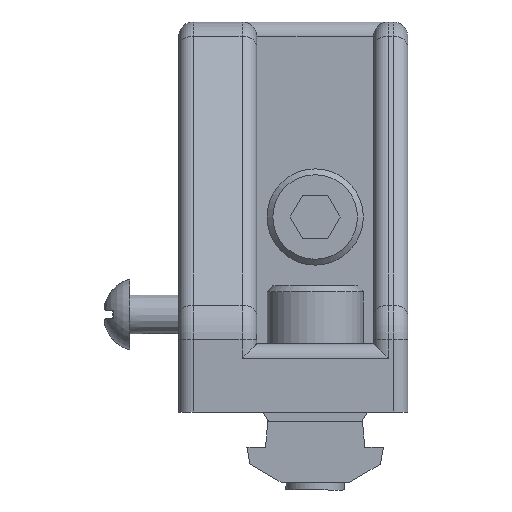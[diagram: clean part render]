
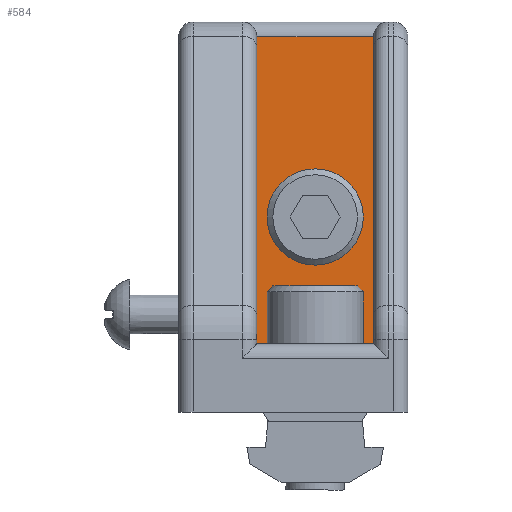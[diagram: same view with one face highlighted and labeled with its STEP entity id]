
A CAD part, front view. The second image highlights one B-rep face of the part: STEP entity #584.
In plain terms, the highlighted planar face has unit normal (0, -1, 0) as drawn and (0, 1, 0) by its records, which use the part's own axes.
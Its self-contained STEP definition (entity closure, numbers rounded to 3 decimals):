
#584=ADVANCED_FACE('',(#1278,#1279),#1280,.F.);
#1278=FACE_BOUND('',#2137,.T.);
#1279=FACE_OUTER_BOUND('',#2138,.T.);
#1280=PLANE('',#2139);
#2137=EDGE_LOOP('',(#3488));
#2138=EDGE_LOOP('',(#3489,#3490,#3491,#3492));
#2139=AXIS2_PLACEMENT_3D('',#3493,#3494,#3495);
#3488=ORIENTED_EDGE('',*,*,#5452,.F.);
#3489=ORIENTED_EDGE('',*,*,#5453,.F.);
#3490=ORIENTED_EDGE('',*,*,#5385,.T.);
#3491=ORIENTED_EDGE('',*,*,#5454,.F.);
#3492=ORIENTED_EDGE('',*,*,#5455,.F.);
#3493=CARTESIAN_POINT('',(8.,8.0,15.5));
#3494=DIRECTION('',(0.0,-1.0,0.0));
#3495=DIRECTION('',(1.0,0.0,0.0));
#5385=EDGE_CURVE('',#6494,#6492,#6495,.F.);
#5452=EDGE_CURVE('',#6582,#6582,#6583,.T.);
#5453=EDGE_CURVE('',#6494,#6584,#6585,.T.);
#5454=EDGE_CURVE('',#6586,#6492,#6587,.T.);
#5455=EDGE_CURVE('',#6584,#6586,#6588,.T.);
#6492=VERTEX_POINT('',#8022);
#6494=VERTEX_POINT('',#8024);
#6495=LINE('',#8025,#8026);
#6582=VERTEX_POINT('',#8140);
#6583=CIRCLE('',#8141,3.25);
#6584=VERTEX_POINT('',#8142);
#6585=LINE('',#8143,#8144);
#6586=VERTEX_POINT('',#8145);
#6587=LINE('',#8146,#8147);
#6588=LINE('',#8148,#8149);
#8022=CARTESIAN_POINT('',(39.5,8.0,15.5));
#8024=CARTESIAN_POINT('',(39.5,8.0,27.5));
#8025=CARTESIAN_POINT('',(39.5,8.0,15.5));
#8026=VECTOR('',#9595,1.0);
#8140=CARTESIAN_POINT('',(24.25,8.0,21.5));
#8141=AXIS2_PLACEMENT_3D('',#9668,#9669,#9670);
#8142=CARTESIAN_POINT('',(8.,8.0,27.5));
#8143=CARTESIAN_POINT('',(41.,8.0,27.5));
#8144=VECTOR('',#9671,1.0);
#8145=CARTESIAN_POINT('',(8.,8.0,15.5));
#8146=CARTESIAN_POINT('',(8.,8.0,15.5));
#8147=VECTOR('',#9672,1.0);
#8148=CARTESIAN_POINT('',(8.,8.0,27.5));
#8149=VECTOR('',#9673,1.0);
#9595=DIRECTION('',(0.0,0.0,1.0));
#9668=CARTESIAN_POINT('',(21.0,8.0,21.5));
#9669=DIRECTION('',(-0.0,1.0,0.0));
#9670=DIRECTION('',(1.0,0.0,0.0));
#9671=DIRECTION('',(-1.0,0.0,0.0));
#9672=DIRECTION('',(1.0,0.0,0.0));
#9673=DIRECTION('',(0.0,0.0,-1.0));
